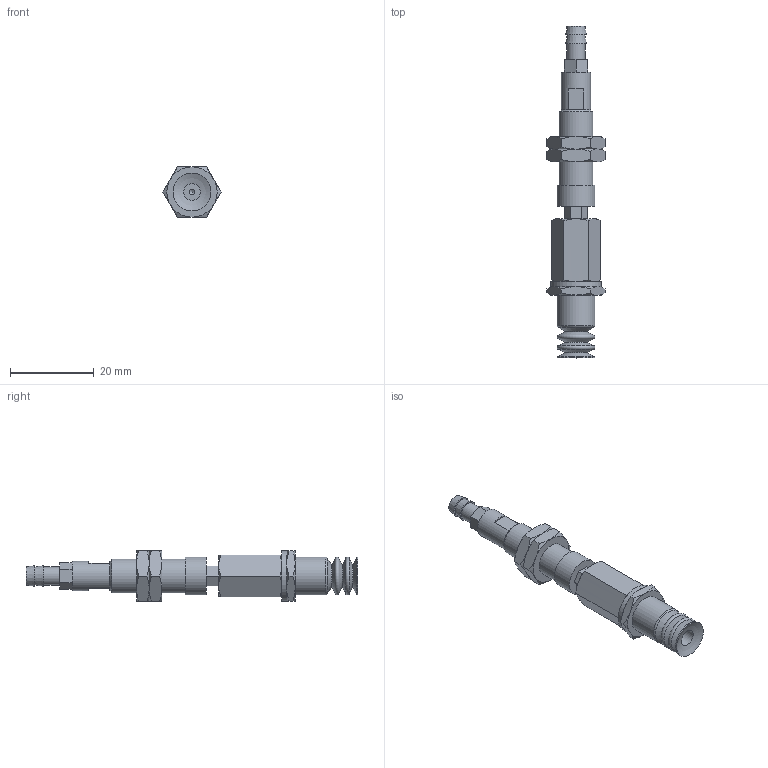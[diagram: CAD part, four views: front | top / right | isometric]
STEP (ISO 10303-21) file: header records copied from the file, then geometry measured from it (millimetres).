
FILE_DESCRIPTION(('STEP AP203'),'1');
FILE_NAME('-T.stp','2025-08-27T01:46:13',(' '),(' '),'Spatial InterOp 3D',' ',' ');
FILE_SCHEMA(('CONFIG_CONTROL_DESIGN'));
Length unit declared in the file: millimetre
Products named in the file (8): BNABPCTH-10-3-※-T; ADAPTER; NAPCTH-10-3-MBODY; Adapter_napc-10-T; Nut napc_h-10-3; NAPCTH-10-3-FBODY; BPCG-10-※; T
Assembly tree (8 placements, depth 2):
  BNABPCTH-10-3-※-T
    ADAPTER
    NAPCTH-10-3-MBODY
    Adapter_napc-10-T
    Nut napc_h-10-3  x2
    NAPCTH-10-3-FBODY
    BPCG-10-※
    T
Bounding box: 13.86 x 79.2 x 12 mm (x, y, z)
Volume: 4499.9 mm3; surface area: 5169.6 mm2
Topology: 8 solids, 8 shells, 170 faces, 352 edges, 209 vertices
Faces by surface type: plane 73, cone 67, cylinder 20, torus 8, sphere 2
Full cylindrical faces by diameter (mm): 1.25 x1, 3 x1, 4 x1, 4.134 x2, 4.3 x1, 5 x6, 7 x1, 7.188 x2, 8 x1, 9 x3, 12 x1
Entity records: 4386 total; most frequent: CARTESIAN_POINT 1129, DIRECTION 596, ORIENTED_EDGE 508, AXIS2_PLACEMENT_3D 258, EDGE_CURVE 254, EDGE_LOOP 214, VERTEX_POINT 179, FACE_OUTER_BOUND 176
